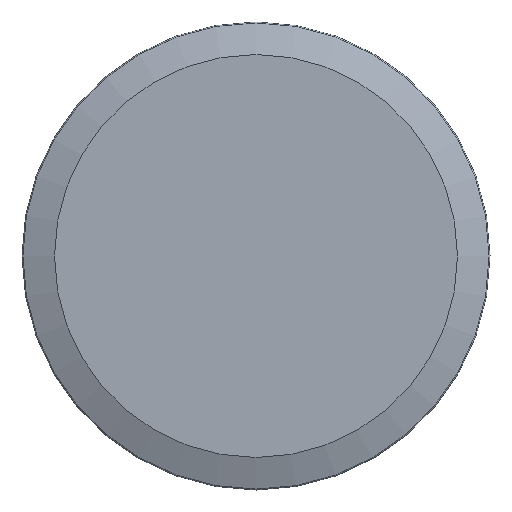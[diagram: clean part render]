
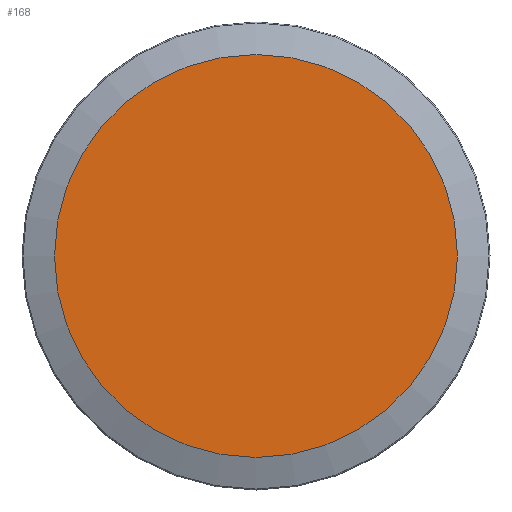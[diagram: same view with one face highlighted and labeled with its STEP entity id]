
A CAD part, left-side view. The second image highlights one B-rep face of the part: STEP entity #168.
In plain terms, the highlighted planar face has unit normal (-1, 0, 0).
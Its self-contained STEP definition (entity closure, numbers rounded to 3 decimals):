
#20=PLANE('',#205);
#24=FACE_OUTER_BOUND('',#35,.T.);
#35=EDGE_LOOP('',(#113));
#56=CIRCLE('',#204,93.724);
#74=VERTEX_POINT('',#300);
#89=EDGE_CURVE('',#74,#74,#56,.T.);
#113=ORIENTED_EDGE('',*,*,#89,.F.);
#168=ADVANCED_FACE('',(#24),#20,.T.);
#204=AXIS2_PLACEMENT_3D('',#302,#239,#240);
#205=AXIS2_PLACEMENT_3D('',#303,#241,#242);
#239=DIRECTION('center_axis',(1.,0.,0.));
#240=DIRECTION('ref_axis',(0.,0.,1.));
#241=DIRECTION('center_axis',(-1.,0.,0.));
#242=DIRECTION('ref_axis',(0.,0.,-1.));
#300=CARTESIAN_POINT('',(-54.534,44.846,-93.724));
#302=CARTESIAN_POINT('Origin',(-54.534,44.846,0.));
#303=CARTESIAN_POINT('Origin',(-54.534,-48.878,0.));
